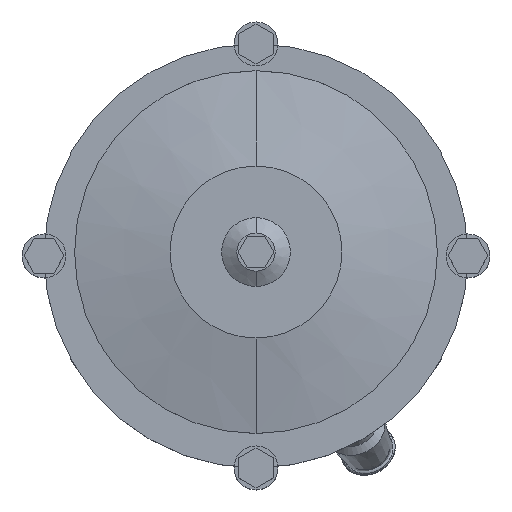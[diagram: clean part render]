
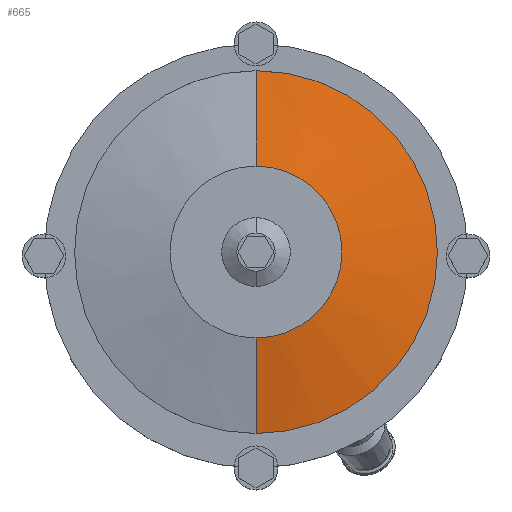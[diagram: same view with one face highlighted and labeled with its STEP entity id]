
A CAD part, top view. The second image highlights one B-rep face of the part: STEP entity #665.
In plain terms, the highlighted conical face has half-angle 78.69 degrees and reference radius 70 mm.
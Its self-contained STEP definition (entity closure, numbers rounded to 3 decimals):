
#665=ADVANCED_FACE('',(#1291),#1292,.T.);
#1291=FACE_OUTER_BOUND('',#2145,.T.);
#1292=CONICAL_SURFACE('',#2146,70.0,1.373);
#2145=EDGE_LOOP('',(#2955,#2956,#2957,#2958));
#2146=AXIS2_PLACEMENT_3D('',#2959,#2960,#2961);
#2955=ORIENTED_EDGE('',*,*,#4386,.F.);
#2956=ORIENTED_EDGE('',*,*,#4387,.F.);
#2957=ORIENTED_EDGE('',*,*,#4388,.F.);
#2958=ORIENTED_EDGE('',*,*,#4333,.F.);
#2959=CARTESIAN_POINT('',(0.0,0.,1285.0));
#2960=DIRECTION('',(-0.0,0.,-1.0));
#2961=DIRECTION('',(0.0,-1.0,0.));
#4333=EDGE_CURVE('',#5004,#5005,#5006,.T.);
#4386=EDGE_CURVE('',#5091,#5004,#5092,.T.);
#4387=EDGE_CURVE('',#5093,#5091,#5094,.T.);
#4388=EDGE_CURVE('',#5005,#5093,#5095,.T.);
#5004=VERTEX_POINT('',#5897);
#5005=VERTEX_POINT('',#5898);
#5006=CIRCLE('',#5899,45.0);
#5091=VERTEX_POINT('',#6014);
#5092=LINE('',#6015,#6016);
#5093=VERTEX_POINT('',#6017);
#5094=CIRCLE('',#6018,95.0);
#5095=LINE('',#6019,#6020);
#5897=CARTESIAN_POINT('',(0.0,-45.0,1290.0));
#5898=CARTESIAN_POINT('',(0.,45.0,1290.0));
#5899=AXIS2_PLACEMENT_3D('',#6879,#6880,#6881);
#6014=CARTESIAN_POINT('',(0.0,-95.0,1280.0));
#6015=CARTESIAN_POINT('',(0.,-70.0,1285.0));
#6016=VECTOR('',#6942,1.0);
#6017=CARTESIAN_POINT('',(0.,95.0,1280.0));
#6018=AXIS2_PLACEMENT_3D('',#6943,#6944,#6945);
#6019=CARTESIAN_POINT('',(0.,70.0,1285.0));
#6020=VECTOR('',#6946,1.0);
#6879=CARTESIAN_POINT('',(0.0,0.,1290.0));
#6880=DIRECTION('',(0.0,0.,1.0));
#6881=DIRECTION('',(0.0,-1.0,0.));
#6942=DIRECTION('',(0.,0.981,0.196));
#6943=CARTESIAN_POINT('',(0.0,0.0,1280.0));
#6944=DIRECTION('',(0.0,0.,-1.0));
#6945=DIRECTION('',(0.0,-1.0,0.));
#6946=DIRECTION('',(0.,0.981,-0.196));
